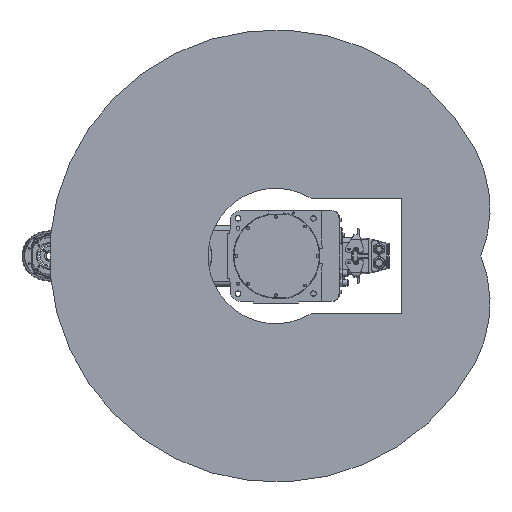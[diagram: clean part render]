
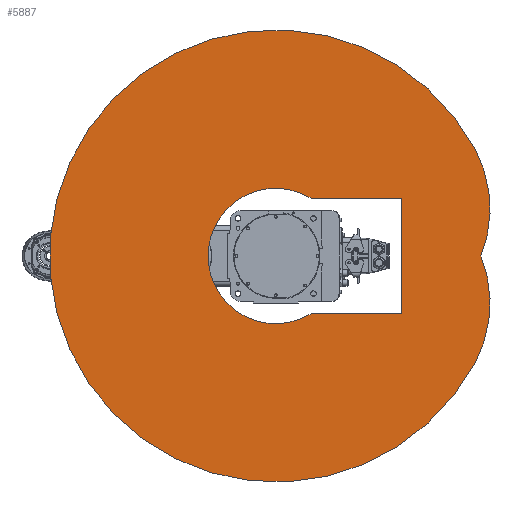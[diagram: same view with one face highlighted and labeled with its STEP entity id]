
A CAD part, front view. The second image highlights one B-rep face of the part: STEP entity #5887.
In plain terms, the highlighted planar face has unit normal (0, -1, 0).
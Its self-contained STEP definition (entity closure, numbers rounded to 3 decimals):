
#5887 = ADVANCED_FACE( '', ( #13543, #13544 ), #13545, .F. );
#13543 = FACE_OUTER_BOUND( '', #23312, .T. );
#13544 = FACE_BOUND( '', #23313, .T. );
#13545 = PLANE( '', #23314 );
#23312 = EDGE_LOOP( '', ( #40271, #40272, #40273 ) );
#23313 = EDGE_LOOP( '', ( #40274, #40275, #40276, #40277 ) );
#23314 = AXIS2_PLACEMENT_3D( '', #40278, #40279, #40280 );
#40271 = ORIENTED_EDGE( '', *, *, #53323, .F. );
#40272 = ORIENTED_EDGE( '', *, *, #56321, .F. );
#40273 = ORIENTED_EDGE( '', *, *, #51506, .F. );
#40274 = ORIENTED_EDGE( '', *, *, #56322, .T. );
#40275 = ORIENTED_EDGE( '', *, *, #56323, .T. );
#40276 = ORIENTED_EDGE( '', *, *, #56324, .T. );
#40277 = ORIENTED_EDGE( '', *, *, #56325, .T. );
#40278 = CARTESIAN_POINT( '', ( 46.947, 0., 88.295 ) );
#40279 = DIRECTION( '', ( 0., 1., 0. ) );
#40280 = DIRECTION( '', ( 0., 0., 1. ) );
#51506 = EDGE_CURVE( '', #61164, #61165, #61166, .T. );
#53323 = EDGE_CURVE( '', #64184, #61164, #64185, .T. );
#56321 = EDGE_CURVE( '', #61165, #64184, #68573, .T. );
#56322 = EDGE_CURVE( '', #68574, #68575, #68576, .T. );
#56323 = EDGE_CURVE( '', #68575, #68577, #68578, .T. );
#56324 = EDGE_CURVE( '', #68577, #68579, #68580, .T. );
#56325 = EDGE_CURVE( '', #68579, #68574, #68581, .T. );
#61164 = VERTEX_POINT( '', #75607 );
#61165 = VERTEX_POINT( '', #75608 );
#61166 = CIRCLE( '', #75609, 450. );
#64184 = VERTEX_POINT( '', #81041 );
#64185 = CIRCLE( '', #81042, 250. );
#68573 = CIRCLE( '', #88428, 250. );
#68574 = VERTEX_POINT( '', #88429 );
#68575 = VERTEX_POINT( '', #88430 );
#68576 = LINE( '', #88431, #88432 );
#68577 = VERTEX_POINT( '', #88433 );
#68578 = LINE( '', #88434, #88435 );
#68579 = VERTEX_POINT( '', #88436 );
#68580 = LINE( '', #88437, #88438 );
#68581 = CIRCLE( '', #88439, 134.76 );
#75607 = CARTESIAN_POINT( '', ( 211.262, 0., 397.326 ) );
#75608 = CARTESIAN_POINT( '', ( -211.262, 0., 397.326 ) );
#75609 = AXIS2_PLACEMENT_3D( '', #94644, #94645, #94646 );
#81041 = CARTESIAN_POINT( '', ( 0., 0., 408.287 ) );
#81042 = AXIS2_PLACEMENT_3D( '', #96934, #96935, #96936 );
#88428 = AXIS2_PLACEMENT_3D( '', #100417, #100418, #100419 );
#88429 = CARTESIAN_POINT( '', ( -115., 0., 70.251 ) );
#88430 = CARTESIAN_POINT( '', ( -115., 0., 250. ) );
#88431 = CARTESIAN_POINT( '', ( -115., 0., 0. ) );
#88432 = VECTOR( '', #100420, 1000. );
#88433 = CARTESIAN_POINT( '', ( 115., 0., 250. ) );
#88434 = CARTESIAN_POINT( '', ( -115., 0., 250. ) );
#88435 = VECTOR( '', #100421, 1000. );
#88436 = CARTESIAN_POINT( '', ( 115., 0., 70.251 ) );
#88437 = CARTESIAN_POINT( '', ( 115., 0., 250. ) );
#88438 = VECTOR( '', #100422, 1000. );
#88439 = AXIS2_PLACEMENT_3D( '', #100423, #100424, #100425 );
#94644 = CARTESIAN_POINT( '', ( 0., 0., 0. ) );
#94645 = DIRECTION( '', ( 0., 1., 0. ) );
#94646 = DIRECTION( '', ( 1., 0., 0. ) );
#96934 = CARTESIAN_POINT( '', ( 93.894, 0., 176.59 ) );
#96935 = DIRECTION( '', ( 0., 1., 0. ) );
#96936 = DIRECTION( '', ( 1., 0., 0. ) );
#100417 = CARTESIAN_POINT( '', ( -93.894, 0., 176.59 ) );
#100418 = DIRECTION( '', ( 0., 1., 0. ) );
#100419 = DIRECTION( '', ( 1., 0., 0. ) );
#100420 = DIRECTION( '', ( 0., 0., 1. ) );
#100421 = DIRECTION( '', ( 1., 0., 0. ) );
#100422 = DIRECTION( '', ( 0., 0., -1. ) );
#100423 = CARTESIAN_POINT( '', ( 0., 0., 0. ) );
#100424 = DIRECTION( '', ( 0., 1., 0. ) );
#100425 = DIRECTION( '', ( 1., 0., 0. ) );
